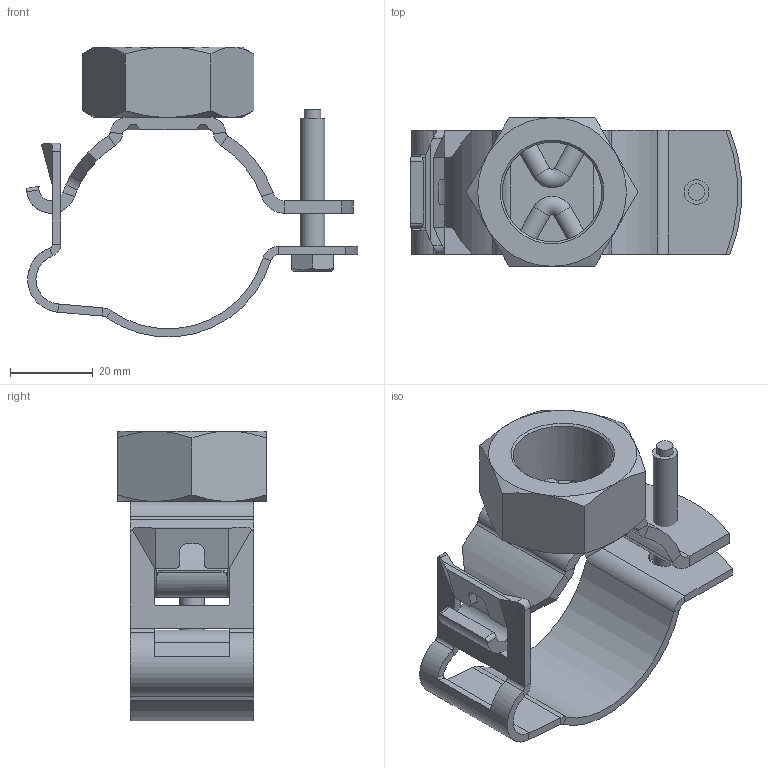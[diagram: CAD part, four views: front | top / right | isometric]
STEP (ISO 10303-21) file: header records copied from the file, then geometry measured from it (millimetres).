
FILE_DESCRIPTION(/* description */ (''),/* implementation_level */ '2;1');
FILE_NAME(/* name */ '360842.stp',/* time_stamp */ '2025-02-20T15:16:08+01:00',/* author */ ('JANAN'),/* organization */ (''),/* preprocessor_version */ 'ST-DEVELOPER v19.2',/* originating_system */ 'Autodesk Inventor 2023',/* authorisation */ '');
FILE_SCHEMA (('AUTOMOTIVE_DESIGN { 1 0 10303 214 3 1 1 }'));
Length unit declared in the file: millimetre
Products named in the file (1): tmp476E.tmp
Bounding box: 80.17 x 36 x 70.13 mm (x, y, z)
Volume: 27422.7 mm3; surface area: 19319.1 mm2
Topology: 3 solids, 3 shells, 221 faces, 563 edges, 343 vertices
Faces by surface type: plane 130, cylinder 58, cone 23, bspline 8, torus 2
Full cylindrical faces by diameter (mm): 4 x1, 4.917 x1, 6 x1, 24.117 x1
Entity records: 7750 total; most frequent: CARTESIAN_POINT 2221, ORIENTED_EDGE 1126, DIRECTION 1072, EDGE_CURVE 563, AXIS2_PLACEMENT_3D 376, VERTEX_POINT 343, LINE 320, VECTOR 320
